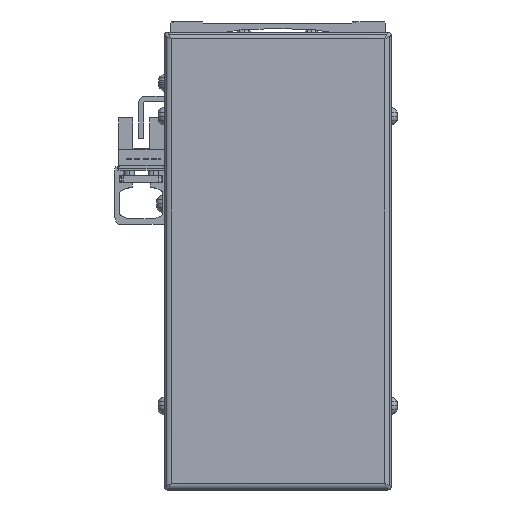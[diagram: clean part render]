
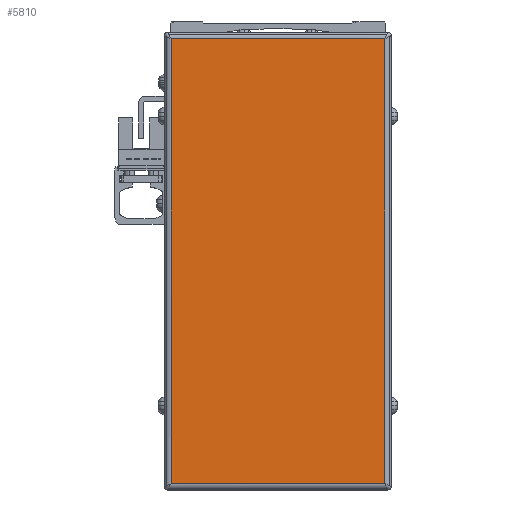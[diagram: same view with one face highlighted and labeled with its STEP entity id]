
A CAD part, front view. The second image highlights one B-rep face of the part: STEP entity #5810.
In plain terms, the highlighted planar face has unit normal (0, -1, 0).
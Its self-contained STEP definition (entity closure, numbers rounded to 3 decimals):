
#5810=ADVANCED_FACE('',(#12204),#12205,.T.);
#12204=FACE_OUTER_BOUND('',#19856,.T.);
#12205=PLANE('',#19857);
#19856=EDGE_LOOP('',(#36477,#36478,#36479,#36480));
#19857=AXIS2_PLACEMENT_3D('',#36481,#36482,#36483);
#36477=ORIENTED_EDGE('',*,*,#50088,.F.);
#36478=ORIENTED_EDGE('',*,*,#47354,.F.);
#36479=ORIENTED_EDGE('',*,*,#50089,.F.);
#36480=ORIENTED_EDGE('',*,*,#49537,.F.);
#36481=CARTESIAN_POINT('',(300.,-19.,-44.));
#36482=DIRECTION('',(0.,-1.0,0.));
#36483=DIRECTION('',(0.,0.,1.0));
#47354=EDGE_CURVE('',#58086,#52045,#58088,.T.);
#49537=EDGE_CURVE('',#52393,#61140,#61141,.T.);
#50088=EDGE_CURVE('',#52045,#52393,#61820,.T.);
#50089=EDGE_CURVE('',#61140,#58086,#61821,.T.);
#52045=VERTEX_POINT('',#64120);
#52393=VERTEX_POINT('',#64582);
#58086=VERTEX_POINT('',#72603);
#58088=LINE('',#72605,#72606);
#61140=VERTEX_POINT('',#77005);
#61141=LINE('',#77006,#77007);
#61820=LINE('',#77973,#77974);
#61821=LINE('',#77975,#77976);
#64120=CARTESIAN_POINT('',(268.3,-19.,22.));
#64582=CARTESIAN_POINT('',(331.7,-19.,22.));
#72603=CARTESIAN_POINT('',(268.3,-19.,-110.));
#72605=CARTESIAN_POINT('',(268.3,-19.,-44.));
#72606=VECTOR('',#85039,10.0);
#77005=CARTESIAN_POINT('',(331.7,-19.,-110.));
#77006=CARTESIAN_POINT('',(331.7,-19.,-44.));
#77007=VECTOR('',#87515,10.0);
#77973=CARTESIAN_POINT('',(300.,-19.,22.));
#77974=VECTOR('',#88091,10.0);
#77975=CARTESIAN_POINT('',(300.,-19.,-110.));
#77976=VECTOR('',#88092,10.0);
#85039=DIRECTION('',(0.,0.,1.0));
#87515=DIRECTION('',(0.,0.,-1.0));
#88091=DIRECTION('',(1.0,0.,0.));
#88092=DIRECTION('',(-1.0,0.,0.));
